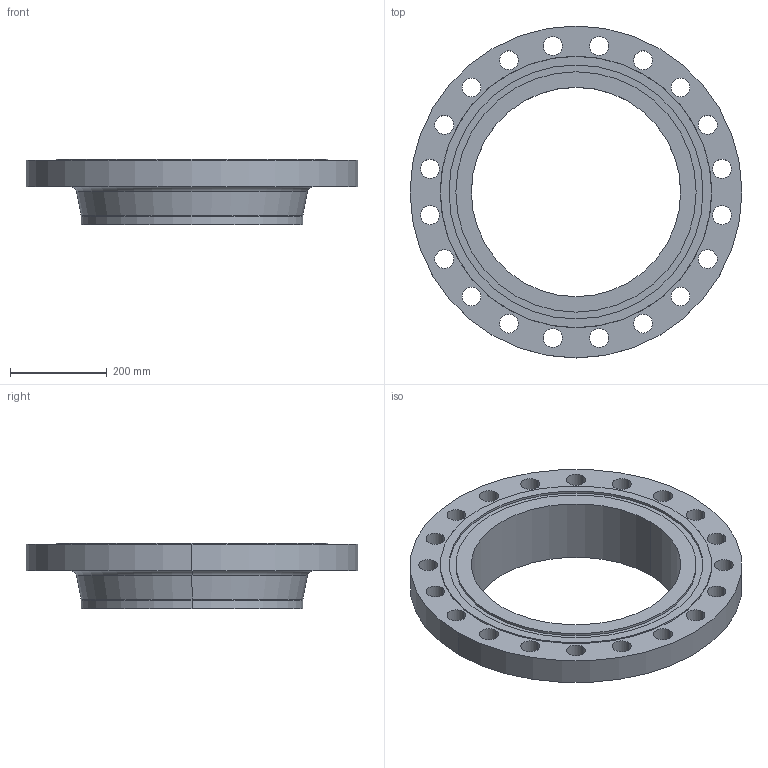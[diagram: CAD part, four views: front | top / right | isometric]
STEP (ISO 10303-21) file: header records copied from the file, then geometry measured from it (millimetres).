
FILE_DESCRIPTION (( 'STEP AP214' ), '1' );
FILE_NAME ('PN40 DN450 Type 11 - Type D Face.STEP', '2018-12-29T04:55:59', ( '' ), ( '' ), 'SwSTEP 2.0', 'SolidWorks 2019', '' );
FILE_SCHEMA (( 'AUTOMOTIVE_DESIGN' ));
Length unit declared in the file: millimetre
Products named in the file (1): PN40 DN450 Type 11 - Type D Face
Bounding box: 685 x 685 x 135 mm (x, y, z)
Volume: 12874473.4 mm3; surface area: 945322.2 mm2
Topology: 1 solids, 1 shells, 64 faces, 168 edges, 110 vertices
Faces by surface type: cylinder 50, plane 6, torus 4, cone 4
Entity records: 2156 total; most frequent: DIRECTION 412, CARTESIAN_POINT 343, ORIENTED_EDGE 336, AXIS2_PLACEMENT_3D 179, EDGE_CURVE 168, CIRCLE 114, EDGE_LOOP 110, VERTEX_POINT 110
